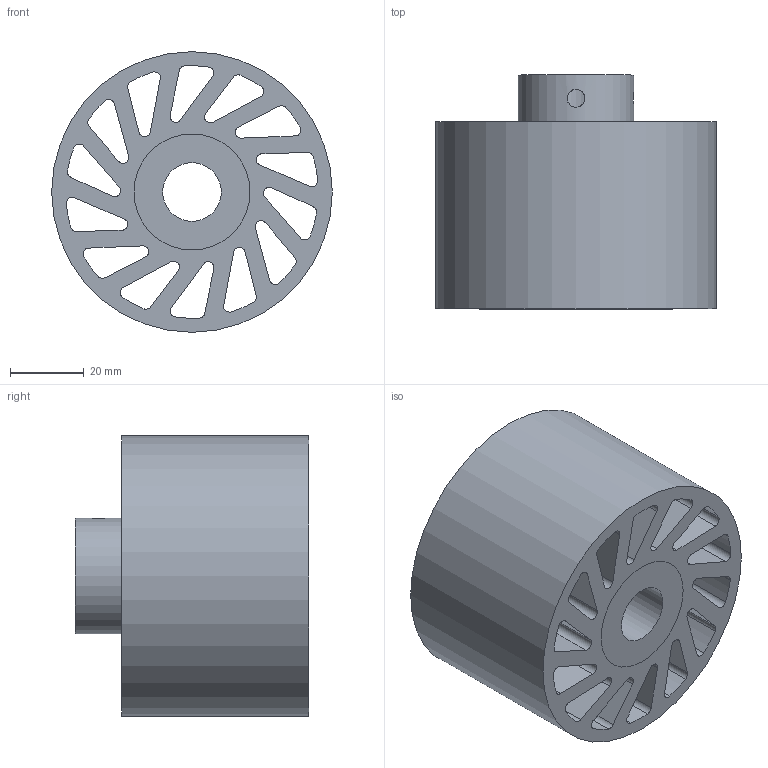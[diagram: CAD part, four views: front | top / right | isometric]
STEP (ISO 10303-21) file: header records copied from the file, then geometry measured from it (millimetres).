
FILE_DESCRIPTION(/* description */ (''),/* implementation_level */ '2;1');
FILE_NAME(/* name */ 'NCW-720-DUR-CLR.stp',/* time_stamp */ '2023-02-01T16:41:13-06:00',/* author */ ('AG'),/* organization */ ('Meridian Laboratory'),/* preprocessor_version */ 'ST-DEVELOPER v18.1',/* originating_system */ 'Autodesk Inventor 2022',/* authorisation */ '');
FILE_SCHEMA (('AUTOMOTIVE_DESIGN { 1 0 10303 214 3 1 1 }'));
Length unit declared in the file: inch
Products named in the file (1): NCW-640-DUR-CLR
Bounding box: 76.2 x 63.5 x 76.2 mm (x, y, z)
Volume: 157994.5 mm3; surface area: 63500.8 mm2
Topology: 2 solids, 2 shells, 94 faces, 274 edges, 184 vertices
Faces by surface type: cylinder 62, plane 32
Full cylindrical faces by diameter (mm): 4.826 x2, 15.9 x1, 31.496 x2, 76.2 x1
Entity records: 3512 total; most frequent: CARTESIAN_POINT 689, DIRECTION 576, ORIENTED_EDGE 548, EDGE_CURVE 274, AXIS2_PLACEMENT_3D 215, VERTEX_POINT 184, LINE 146, VECTOR 146
